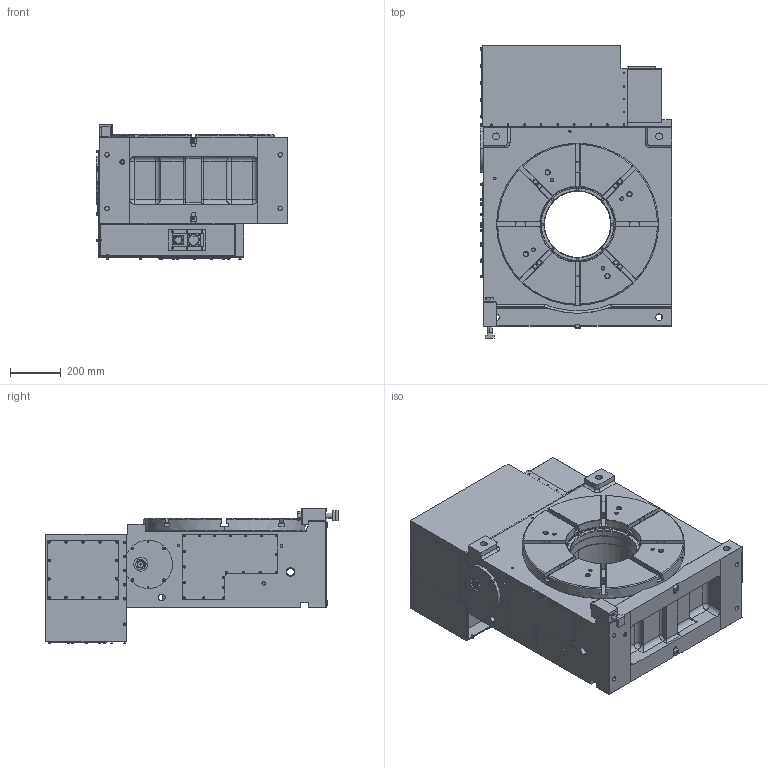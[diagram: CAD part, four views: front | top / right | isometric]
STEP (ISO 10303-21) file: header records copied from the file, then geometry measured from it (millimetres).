
FILE_DESCRIPTION (( 'STEP AP203' ), '1' );
FILE_NAME ('1524298-MDU630R-12 MDU632R-01.STEP', '2020-12-05T05:24:39', ( '' ), ( '' ), 'SwSTEP 2.0', 'SolidWorks 2019', '' );
FILE_SCHEMA (( 'CONFIG_CONTROL_DESIGN' ));
Products named in the file (1): 1524298-MDU630R-12  MDU632R-01
Bounding box: 752.5 x 1147 x 533.4 mm (x, y, z)
Surface area: 4489550.9 mm2 (no closed solid volume)
Topology: 0 solids, 171 shells, 1522 faces, 5220 edges, 3807 vertices
Faces by surface type: cylinder 707, plane 591, cone 209, sphere 8, torus 7
Entity records: 58011 total; most frequent: CARTESIAN_POINT 11735, DIRECTION 10354, ORIENTED_EDGE 7918, EDGE_CURVE 5212, AXIS2_PLACEMENT_3D 3870, VERTEX_POINT 3807, LINE 2614, VECTOR 2614
